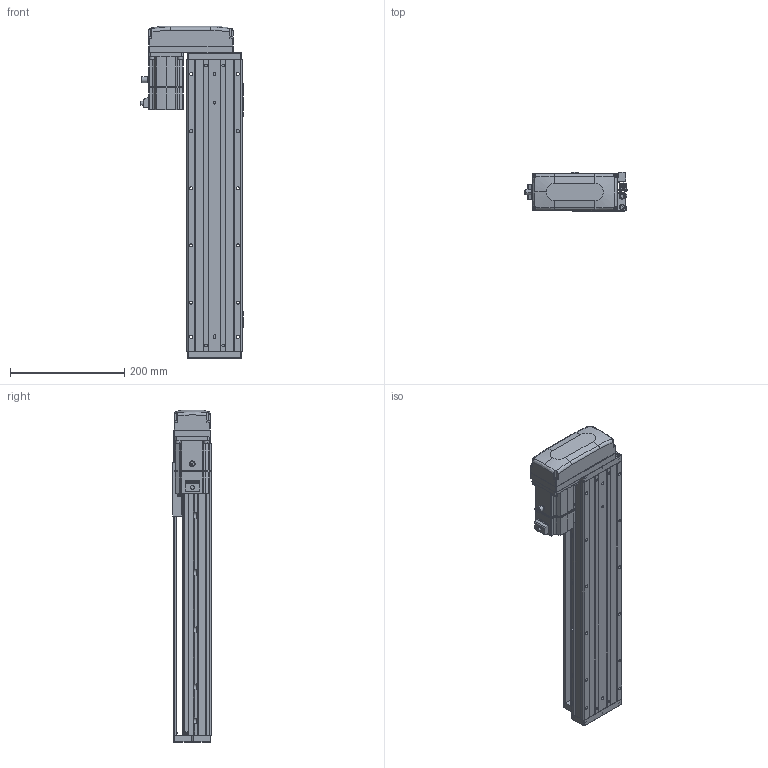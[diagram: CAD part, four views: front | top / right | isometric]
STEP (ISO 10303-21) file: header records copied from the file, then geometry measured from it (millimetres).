
FILE_DESCRIPTION (( 'STEP AP203' ), '1' );
FILE_NAME ('KTHA100-350-BR-M20-C4L.step', '2022-04-26T01:59:32', ( '微软用户' ), ( '微软中国' ), 'SwSTEP 2.0', 'SolidWorks 2020', '' );
FILE_SCHEMA (( 'CONFIG_CONTROL_DESIGN' ));
Length unit declared in the file: millimetre
Products named in the file (17): GBT 70.3-M3℅6; CTHA60-017; _X2_4E0983F1_X0_200W_1; KTHA100-001_510; CTHA60-021; CTHA86-015-1_CTHA86-015-2; KTHA100-002; GBT77-2000 M3×3; CTHA86-033; KTHA100-004; GBT 70.1-M3℅6; KTHA100-350-BR-M20-C4L; KTHA100-005; GBT70.1 M5℅16; GB¨uT 70.2-M3¡Á5_M3¡Á6; CTHA60-016; EE_SX911P_R
Assembly tree (57 placements, depth 2):
  KTHA100-350-BR-M20-C4L
    KTHA100-001_510
    KTHA100-002
    KTHA100-004
    KTHA100-005
    GB¨uT 70.2-M3¡Á5_M3¡Á6  x6
    EE_SX911P_R  x3
    CTHA60-017  x3
    CTHA60-021  x2
    GBT77-2000 M3×3  x6
    GBT 70.1-M3℅6  x10
    GBT70.1 M5℅16  x14
    CTHA60-016  x2
    GBT 70.3-M3℅6  x4
    _X2_4E0983F1_X0_200W_1
    CTHA86-015-1_CTHA86-015-2
    CTHA86-033
Bounding box: 178.52 x 68 x 581 mm (x, y, z)
Volume: 2802386.6 mm3; surface area: 464049.9 mm2
Topology: 60 solids, 60 shells, 2397 faces, 5721 edges, 3544 vertices
Faces by surface type: plane 1220, cylinder 665, cone 305, torus 116, bspline 75, sphere 16
Entity records: 40656 total; most frequent: CARTESIAN_POINT 8224, DIRECTION 6272, ORIENTED_EDGE 6054, EDGE_CURVE 3027, AXIS2_PLACEMENT_3D 2200, VERTEX_POINT 1904, LINE 1872, VECTOR 1872
